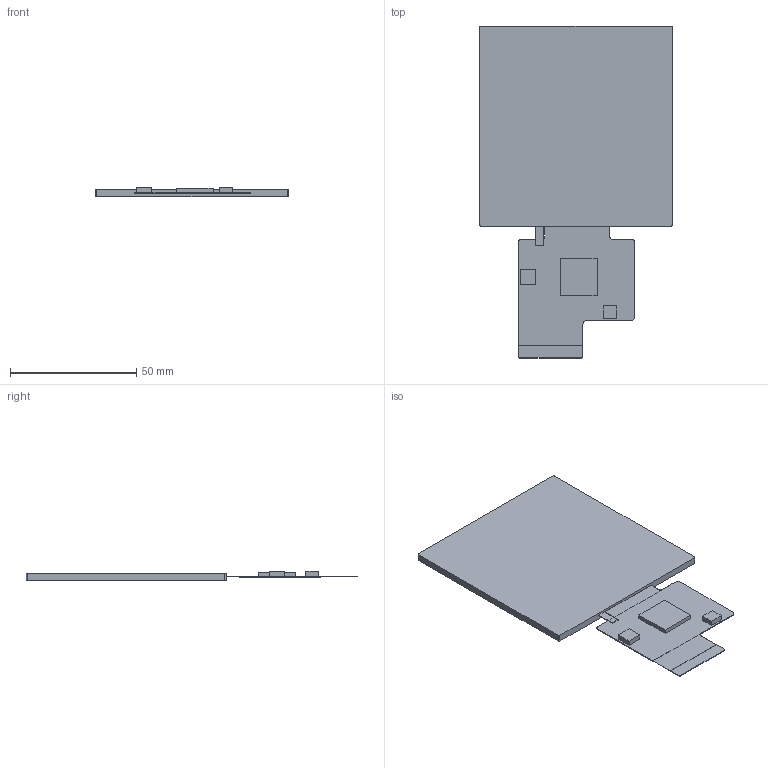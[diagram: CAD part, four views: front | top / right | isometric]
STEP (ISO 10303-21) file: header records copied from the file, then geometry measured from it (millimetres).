
FILE_DESCRIPTION((''),'2;1');
FILE_NAME('3D-DMG48480F040-01WN-211203-2','2021-12-03T',('Administrator'),(''),'PRO/ENGINEER BY PARAMETRIC TECHNOLOGY CORPORATION, 2008380','PRO/ENGINEER BY PARAMETRIC TECHNOLOGY CORPORATION, 2008380','');
FILE_SCHEMA(('CONFIG_CONTROL_DESIGN'));
Length unit declared in the file: millimetre
Products named in the file (1): 3D-DMG48480F040-01WN-211203-2
Bounding box: 76.4 x 131.68 x 3.7 mm (x, y, z)
Volume: 18084.1 mm3; surface area: 17273 mm2
Topology: 1 solids, 1 shells, 52 faces, 143 edges, 96 vertices
Faces by surface type: plane 40, cylinder 12
Entity records: 1688 total; most frequent: CARTESIAN_POINT 288, ORIENTED_EDGE 278, DIRECTION 274, EDGE_CURVE 139, VECTOR 118, LINE 118, VERTEX_POINT 92, AXIS2_PLACEMENT_3D 78
